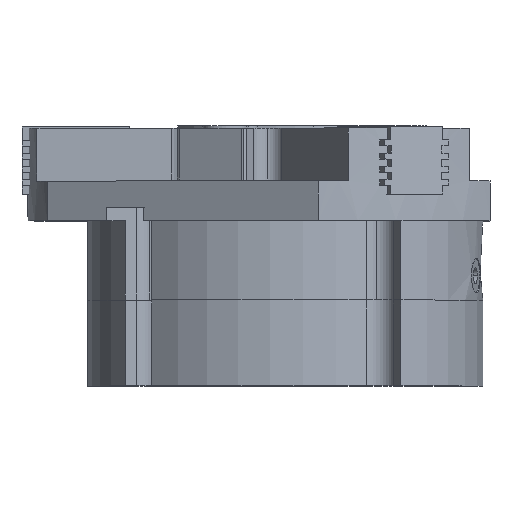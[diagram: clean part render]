
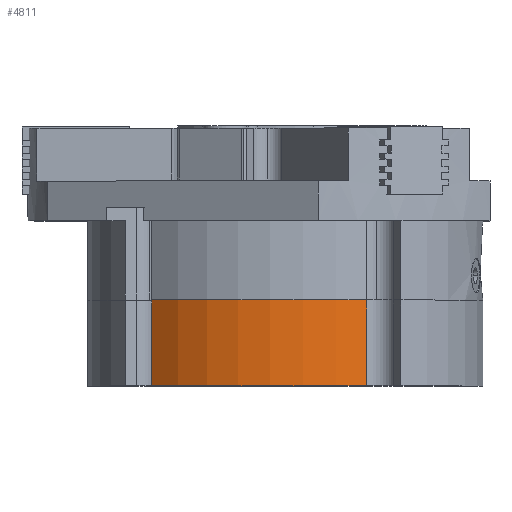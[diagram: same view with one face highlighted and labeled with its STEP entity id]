
A CAD part, top view. The second image highlights one B-rep face of the part: STEP entity #4811.
In plain terms, the highlighted cylindrical face has radius 150 mm (diameter 300 mm), a partial arc.
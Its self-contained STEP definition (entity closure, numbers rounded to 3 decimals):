
#119 = CARTESIAN_POINT ( 'NONE',  ( -111.014, 0., -100.876 ) ) ;
#1452 = EDGE_CURVE ( 'NONE', #14966, #3731, #9223, .T. ) ;
#2066 = VECTOR ( 'NONE', #5042, 1000. ) ;
#2551 = CARTESIAN_POINT ( 'NONE',  ( -111.014, 65., -100.876 ) ) ;
#2986 = CYLINDRICAL_SURFACE ( 'NONE', #10257, 150. ) ;
#3032 = DIRECTION ( 'NONE',  ( 0., -1., 0. ) ) ;
#3112 = VERTEX_POINT ( 'NONE', #11068 ) ;
#3328 = CIRCLE ( 'NONE', #8471, 150. ) ;
#3647 = DIRECTION ( 'NONE',  ( 0., 1., 0. ) ) ;
#3731 = VERTEX_POINT ( 'NONE', #11609 ) ;
#4468 = DIRECTION ( 'NONE',  ( 0., -1., 0. ) ) ;
#4811 = ADVANCED_FACE ( 'NONE', ( #14688 ), #2986, .T. ) ;
#5042 = DIRECTION ( 'NONE',  ( 0., -1., 0. ) ) ;
#5679 = ORIENTED_EDGE ( 'NONE', *, *, #14619, .T. ) ;
#6178 = EDGE_CURVE ( 'NONE', #14402, #14966, #3328, .T. ) ;
#6240 = DIRECTION ( 'NONE',  ( 0., 1., 0. ) ) ;
#6371 = AXIS2_PLACEMENT_3D ( 'NONE', #12023, #4468, #15669 ) ;
#6732 = DIRECTION ( 'NONE',  ( 0., 0., -1. ) ) ;
#8023 = LINE ( 'NONE', #2551, #2066 ) ;
#8471 = AXIS2_PLACEMENT_3D ( 'NONE', #15861, #3647, #13449 ) ;
#8698 = ORIENTED_EDGE ( 'NONE', *, *, #1452, .T. ) ;
#9168 = CARTESIAN_POINT ( 'NONE',  ( 0., 65., 0. ) ) ;
#9223 = LINE ( 'NONE', #10096, #9410 ) ;
#9410 = VECTOR ( 'NONE', #6240, 1000. ) ;
#10096 = CARTESIAN_POINT ( 'NONE',  ( -136.753, -11., 61.634 ) ) ;
#10257 = AXIS2_PLACEMENT_3D ( 'NONE', #9168, #3032, #6732 ) ;
#10705 = ORIENTED_EDGE ( 'NONE', *, *, #6178, .T. ) ;
#11068 = CARTESIAN_POINT ( 'NONE',  ( -111.014, 65., -100.876 ) ) ;
#11609 = CARTESIAN_POINT ( 'NONE',  ( -136.753, 65., 61.634 ) ) ;
#12023 = CARTESIAN_POINT ( 'NONE',  ( 0., 65., 0. ) ) ;
#12169 = EDGE_LOOP ( 'NONE', ( #10705, #8698, #5679, #15821 ) ) ;
#12440 = CARTESIAN_POINT ( 'NONE',  ( -136.753, 0., 61.634 ) ) ;
#12467 = EDGE_CURVE ( 'NONE', #3112, #14402, #8023, .T. ) ;
#13449 = DIRECTION ( 'NONE',  ( 0., 0., -1. ) ) ;
#14086 = CIRCLE ( 'NONE', #6371, 150. ) ;
#14402 = VERTEX_POINT ( 'NONE', #119 ) ;
#14619 = EDGE_CURVE ( 'NONE', #3731, #3112, #14086, .T. ) ;
#14688 = FACE_OUTER_BOUND ( 'NONE', #12169, .T. ) ;
#14966 = VERTEX_POINT ( 'NONE', #12440 ) ;
#15669 = DIRECTION ( 'NONE',  ( 0., 0., -1. ) ) ;
#15821 = ORIENTED_EDGE ( 'NONE', *, *, #12467, .T. ) ;
#15861 = CARTESIAN_POINT ( 'NONE',  ( 0., 0., 0. ) ) ;
